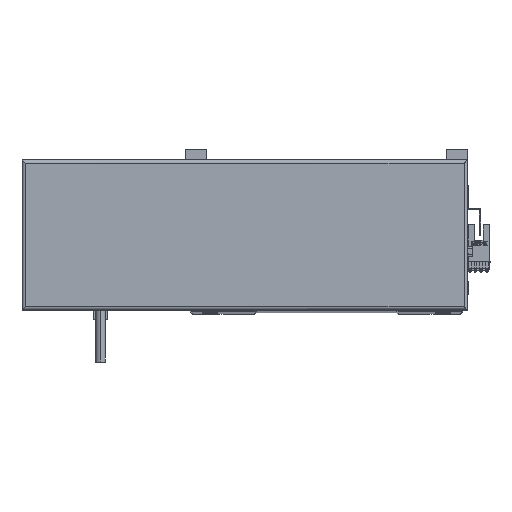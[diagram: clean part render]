
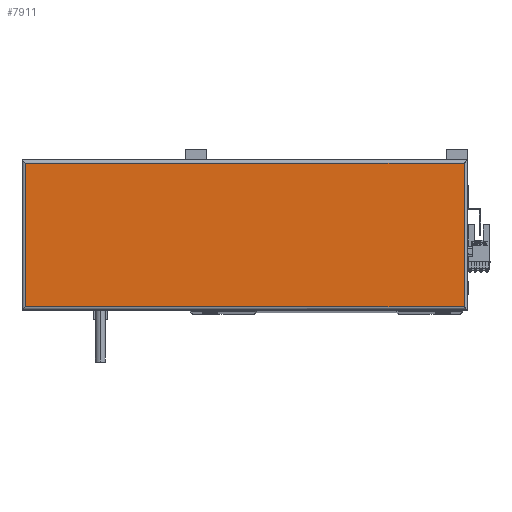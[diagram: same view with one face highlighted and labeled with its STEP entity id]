
A CAD part, top view. The second image highlights one B-rep face of the part: STEP entity #7911.
In plain terms, the highlighted planar face has unit normal (0, 0, 1).
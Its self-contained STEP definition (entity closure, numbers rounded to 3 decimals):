
#2897 = PLANE ( 'NONE',  #10070 ) ;
#4148 = EDGE_CURVE ( 'NONE', #34746, #4364, #37960, .T. ) ;
#4364 = VERTEX_POINT ( 'NONE', #33631 ) ;
#6404 = ORIENTED_EDGE ( 'NONE', *, *, #4148, .T. ) ;
#6780 = VECTOR ( 'NONE', #23812, 1000. ) ;
#7180 = EDGE_CURVE ( 'NONE', #4364, #21921, #41983, .T. ) ;
#7911 = ADVANCED_FACE ( 'NONE', ( #44251 ), #2897, .T. ) ;
#8774 = CARTESIAN_POINT ( 'NONE',  ( 265., 2., 44.8 ) ) ;
#10070 = AXIS2_PLACEMENT_3D ( 'NONE', #48422, #40496, #36836 ) ;
#12118 = LINE ( 'NONE', #12221, #6780 ) ;
#12221 = CARTESIAN_POINT ( 'NONE',  ( 2., 0., 44.8 ) ) ;
#14714 = CARTESIAN_POINT ( 'NONE',  ( 267., 2., 44.8 ) ) ;
#17494 = LINE ( 'NONE', #14714, #48198 ) ;
#20444 = CARTESIAN_POINT ( 'NONE',  ( 2., 88., 44.8 ) ) ;
#21921 = VERTEX_POINT ( 'NONE', #20444 ) ;
#23448 = VERTEX_POINT ( 'NONE', #26008 ) ;
#23733 = ORIENTED_EDGE ( 'NONE', *, *, #7180, .T. ) ;
#23812 = DIRECTION ( 'NONE',  ( 0., -1., 0. ) ) ;
#26008 = CARTESIAN_POINT ( 'NONE',  ( 2., 2., 44.8 ) ) ;
#28350 = DIRECTION ( 'NONE',  ( 0., 1., 0. ) ) ;
#33631 = CARTESIAN_POINT ( 'NONE',  ( 265., 88., 44.8 ) ) ;
#33893 = DIRECTION ( 'NONE',  ( 1., 0., 0. ) ) ;
#34149 = DIRECTION ( 'NONE',  ( -1., 0., 0. ) ) ;
#34746 = VERTEX_POINT ( 'NONE', #8774 ) ;
#36836 = DIRECTION ( 'NONE',  ( 1., 0., 0. ) ) ;
#37960 = LINE ( 'NONE', #39307, #40896 ) ;
#38352 = EDGE_CURVE ( 'NONE', #23448, #34746, #17494, .T. ) ;
#39307 = CARTESIAN_POINT ( 'NONE',  ( 265., 90., 44.8 ) ) ;
#40385 = ORIENTED_EDGE ( 'NONE', *, *, #38352, .T. ) ;
#40496 = DIRECTION ( 'NONE',  ( 0., 0., 1. ) ) ;
#40896 = VECTOR ( 'NONE', #28350, 1000. ) ;
#41983 = LINE ( 'NONE', #42057, #46715 ) ;
#42057 = CARTESIAN_POINT ( 'NONE',  ( 0., 88., 44.8 ) ) ;
#43014 = EDGE_CURVE ( 'NONE', #21921, #23448, #12118, .T. ) ;
#43514 = ORIENTED_EDGE ( 'NONE', *, *, #43014, .T. ) ;
#44251 = FACE_OUTER_BOUND ( 'NONE', #48738, .T. ) ;
#46715 = VECTOR ( 'NONE', #34149, 1000. ) ;
#48198 = VECTOR ( 'NONE', #33893, 1000. ) ;
#48422 = CARTESIAN_POINT ( 'NONE',  ( 133.5, 45., 44.8 ) ) ;
#48738 = EDGE_LOOP ( 'NONE', ( #6404, #23733, #43514, #40385 ) ) ;
